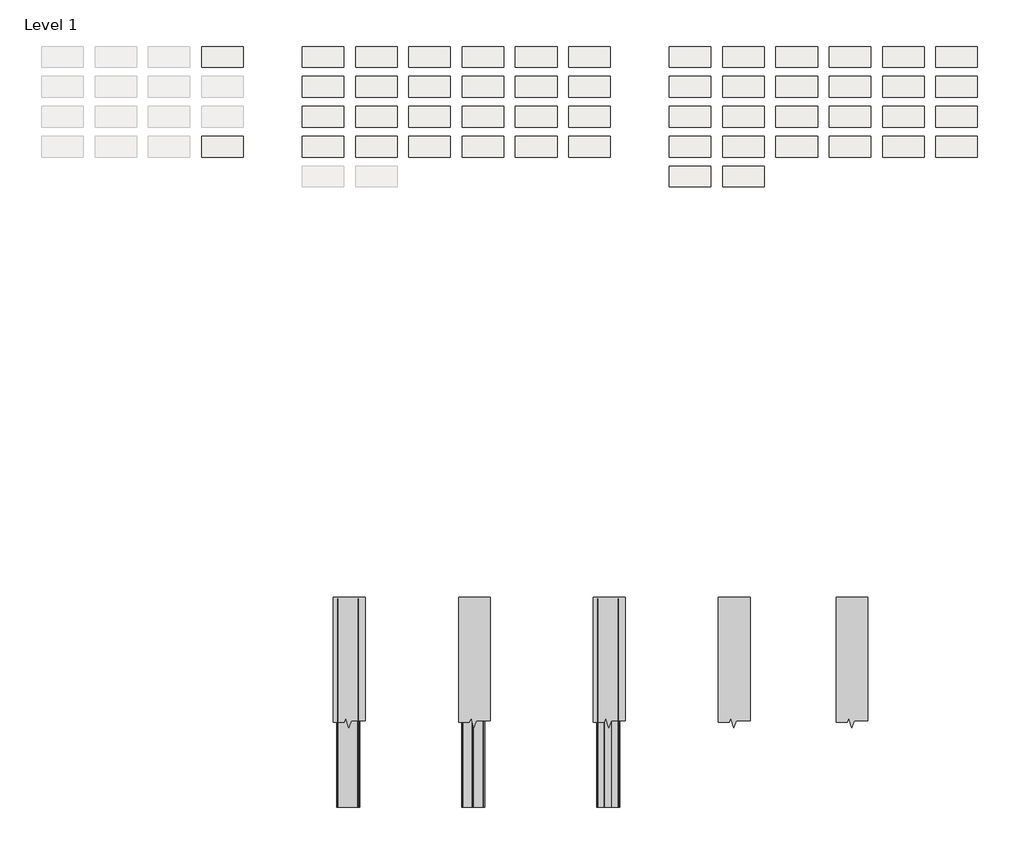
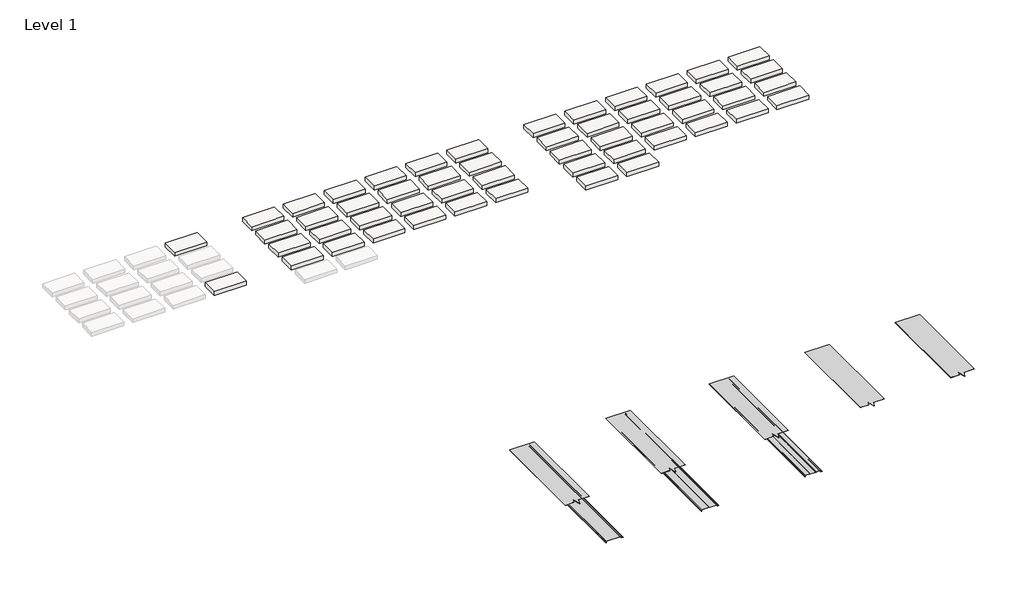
# One storey, part 2 of 2: 52 slabs, 8 proxies.
"""IFC4 building model written with IfcOpenShell, lengths in millimetres."""

from ifc_helpers import new_model, si_unit, frame, origin, place, context, project, spatial, polyline, outline, extrude, transform, mapped, element, save
from components import proxy_ff258109, proxy_1fc6f8f9, proxy_1fe1eae3, section_mask_section_mask_d91737e5

model = new_model("IFC4")

# Units and contexts
model_context = context("Model", 3, world=origin())
ifc_project = project(units=[si_unit("LENGTHUNIT", "METRE", prefix="MILLI")], contexts=[model_context])

# Site, building, storey
site = spatial("IfcSite", under=ifc_project)
building = spatial("IfcBuilding", under=site)
storey = spatial("IfcBuildingStorey", under=building, Name="Level 1", Elevation=0.0)

# Proxies
placement = place(None, origin())
proxy_shape = proxy_ff258109(model_context)
element("IfcBuildingElementProxy", 1, Name="Flush-Panel_1-Pencil-Rib_Panel_AEP_Span : 12\" Flush Panel - 1 Pencil Rib - 22ga", ObjectType="Flush-Panel_1-Pencil-Rib_Panel_AEP_Span : 12\" Flush Panel - 1 Pencil Rib - 22ga", at=placement, inside=storey, context=model_context, shape_type="MappedRepresentation", body=[
    mapped(proxy_shape, transform((8295.0843011, -590.3685555, 0.0), x_axis=(1.0, 0.0, 0.0), y_axis=(0.0, 1.0, 0.0), z_axis=(0.0, 0.0, 1.0))),
])
proxy_2_shape = proxy_1fc6f8f9(model_context)
element("IfcBuildingElementProxy", 2, Name="Flush-Panel_2-Pencil-Rib_Panel_AEP_Span : 12\" Flush Panel - 2 Pencil Ribs - 22ga", ObjectType="Flush-Panel_2-Pencil-Rib_Panel_AEP_Span : 12\" Flush Panel - 2 Pencil Ribs - 22ga", at=placement, inside=storey, context=model_context, shape_type="MappedRepresentation", body=[
    mapped(proxy_2_shape, transform((10276.2843011, -590.3685555, 0.0), x_axis=(1.0, 0.0, 0.0), y_axis=(0.0, 1.0, 0.0), z_axis=(0.0, 0.0, 1.0))),
])
proxy_3_shape = proxy_1fe1eae3(model_context)
element("IfcBuildingElementProxy", 3, Name="Flush-Panel_Panel_AEP_Span : 12\" Flush Panel - 22ga", ObjectType="Flush-Panel_Panel_AEP_Span : 12\" Flush Panel - 22ga", at=placement, inside=storey, context=model_context, shape_type="MappedRepresentation", body=[
    mapped(proxy_3_shape, transform((6466.2843011, -590.3685555, 0.0), x_axis=(1.0, 0.0, 0.0), y_axis=(0.0, 1.0, 0.0), z_axis=(0.0, 0.0, 1.0))),
])
section_mask_section_mask_shape = section_mask_section_mask_d91737e5(model_context)
element("IfcBuildingElementProxy", 4, Name="Section Mask : Section Mask", ObjectType="Section Mask : Section Mask", at=placement, inside=storey, context=model_context, shape_type="MappedRepresentation", body=[
    mapped(section_mask_section_mask_shape, transform((164.7879658, -3030.1113385, -15.875), x_axis=(1.0, 0.0, 0.0), y_axis=(0.0, 1.0, 0.0), z_axis=(0.0, 0.0, 1.0))),
])
element("IfcBuildingElementProxy", 5, Name="Section Mask1 : Section Mask", ObjectType="Section Mask1 : Section Mask", at=placement, inside=storey, context=model_context, shape_type="MappedRepresentation", body=[
    mapped(section_mask_section_mask_shape, transform((-1669.7396709, -3030.1113385, -15.875), x_axis=(1.0, 0.0, 0.0), y_axis=(0.0, 1.0, 0.0), z_axis=(0.0, 0.0, 1.0))),
])
element("IfcBuildingElementProxy", 6, Name="Section Mask2 : Section Mask", ObjectType="Section Mask2 : Section Mask", at=placement, inside=storey, context=model_context, shape_type="MappedRepresentation", body=[
    mapped(section_mask_section_mask_shape, transform((2140.2603291, -3030.1113385, -15.875), x_axis=(1.0, 0.0, 0.0), y_axis=(0.0, 1.0, 0.0), z_axis=(0.0, 0.0, 1.0))),
])
element("IfcBuildingElementProxy", 7, Name="Section Mask3 : Section Mask", ObjectType="Section Mask3 : Section Mask", at=placement, inside=storey, context=model_context, shape_type="MappedRepresentation", body=[
    mapped(section_mask_section_mask_shape, transform((3968.8174266, -3030.1113385, -15.875), x_axis=(1.0, 0.0, 0.0), y_axis=(0.0, 1.0, 0.0), z_axis=(0.0, 0.0, 1.0))),
])
element("IfcBuildingElementProxy", 8, Name="Section Mask4 : Section Mask", ObjectType="Section Mask4 : Section Mask", at=placement, inside=storey, context=model_context, shape_type="MappedRepresentation", body=[
    mapped(section_mask_section_mask_shape, transform((5696.8809594, -3030.1113385, -15.875), x_axis=(1.0, 0.0, 0.0), y_axis=(0.0, 1.0, 0.0), z_axis=(0.0, 0.0, 1.0))),
])

# Slabs
element("IfcSlab", 9, ObjectType="AEP Span Material Sample", at=placement, inside=storey, context=model_context, shape_type="SweptSolid", body=[
    extrude(outline(polyline([(4975.8339225, 7199.3976846), (4366.2339225, 7199.3976846), (4366.2339225, 7504.1976846), (4975.8339225, 7504.1976846), (4975.8339225, 7199.3976846)])), frame((0.0, 0.0, -79.375), z_axis=(0.0, 0.0, 1.0), x_axis=(1.0, 0.0, 0.0)), (0.0, 0.0, 1.0), 79.375),
])
element("IfcSlab", 10, ObjectType="AEP Span Material Sample", at=placement, inside=storey, context=model_context, shape_type="SweptSolid", body=[
    extrude(outline(polyline([(4975.8339225, 5884.9476846), (4366.2339225, 5884.9476846), (4366.2339225, 6189.7476846), (4975.8339225, 6189.7476846), (4975.8339225, 5884.9476846)])), frame((0.0, 0.0, -79.375), z_axis=(0.0, 0.0, 1.0), x_axis=(1.0, 0.0, 0.0)), (0.0, 0.0, 1.0), 79.375),
])
element("IfcSlab", 11, ObjectType="AEP Span Material Sample", at=placement, inside=storey, context=model_context, shape_type="SweptSolid", body=[
    extrude(outline(polyline([(6449.0339225, 7199.3976846), (5839.4339225, 7199.3976846), (5839.4339225, 7504.1976846), (6449.0339225, 7504.1976846), (6449.0339225, 7199.3976846)])), frame((0.0, 0.0, -79.375), z_axis=(0.0, 0.0, 1.0), x_axis=(1.0, 0.0, 0.0)), (0.0, 0.0, 1.0), 79.375),
])
element("IfcSlab", 12, ObjectType="AEP Span Material Sample", at=placement, inside=storey, context=model_context, shape_type="SweptSolid", body=[
    extrude(outline(polyline([(7230.0839225, 7199.3976846), (6620.4839225, 7199.3976846), (6620.4839225, 7504.1976846), (7230.0839225, 7504.1976846), (7230.0839225, 7199.3976846)])), frame((0.0, 0.0, -79.375), z_axis=(0.0, 0.0, 1.0), x_axis=(1.0, 0.0, 0.0)), (0.0, 0.0, 1.0), 79.375),
])
element("IfcSlab", 13, ObjectType="AEP Span Material Sample", at=placement, inside=storey, context=model_context, shape_type="SweptSolid", body=[
    extrude(outline(polyline([(8011.1339225, 7199.3976846), (7401.5339225, 7199.3976846), (7401.5339225, 7504.1976846), (8011.1339225, 7504.1976846), (8011.1339225, 7199.3976846)])), frame((0.0, 0.0, -79.375), z_axis=(0.0, 0.0, 1.0), x_axis=(1.0, 0.0, 0.0)), (0.0, 0.0, 1.0), 79.375),
])
element("IfcSlab", 14, ObjectType="AEP Span Material Sample", at=placement, inside=storey, context=model_context, shape_type="SweptSolid", body=[
    extrude(outline(polyline([(8792.1839225, 7199.3976846), (8182.5839225, 7199.3976846), (8182.5839225, 7504.1976846), (8792.1839225, 7504.1976846), (8792.1839225, 7199.3976846)])), frame((0.0, 0.0, -79.375), z_axis=(0.0, 0.0, 1.0), x_axis=(1.0, 0.0, 0.0)), (0.0, 0.0, 1.0), 79.375),
])
element("IfcSlab", 15, ObjectType="AEP Span Material Sample", at=placement, inside=storey, context=model_context, shape_type="SweptSolid", body=[
    extrude(outline(polyline([(9573.2339225, 7199.3976846), (8963.6339225, 7199.3976846), (8963.6339225, 7504.1976846), (9573.2339225, 7504.1976846), (9573.2339225, 7199.3976846)])), frame((0.0, 0.0, -79.375), z_axis=(0.0, 0.0, 1.0), x_axis=(1.0, 0.0, 0.0)), (0.0, 0.0, 1.0), 79.375),
])
element("IfcSlab", 16, ObjectType="AEP Span Material Sample", at=placement, inside=storey, context=model_context, shape_type="SweptSolid", body=[
    extrude(outline(polyline([(10354.2839225, 7199.3976846), (9744.6839225, 7199.3976846), (9744.6839225, 7504.1976846), (10354.2839225, 7504.1976846), (10354.2839225, 7199.3976846)])), frame((0.0, 0.0, -79.375), z_axis=(0.0, 0.0, 1.0), x_axis=(1.0, 0.0, 0.0)), (0.0, 0.0, 1.0), 79.375),
])
element("IfcSlab", 17, ObjectType="AEP Span Material Sample", at=placement, inside=storey, context=model_context, shape_type="SweptSolid", body=[
    extrude(outline(polyline([(6449.0339225, 6761.2476846), (5839.4339225, 6761.2476846), (5839.4339225, 7066.0476846), (6449.0339225, 7066.0476846), (6449.0339225, 6761.2476846)])), frame((0.0, 0.0, -79.375), z_axis=(0.0, 0.0, 1.0), x_axis=(1.0, 0.0, 0.0)), (0.0, 0.0, 1.0), 79.375),
])
element("IfcSlab", 18, ObjectType="AEP Span Material Sample", at=placement, inside=storey, context=model_context, shape_type="SweptSolid", body=[
    extrude(outline(polyline([(7230.0839225, 6761.2476846), (6620.4839225, 6761.2476846), (6620.4839225, 7066.0476846), (7230.0839225, 7066.0476846), (7230.0839225, 6761.2476846)])), frame((0.0, 0.0, -79.375), z_axis=(0.0, 0.0, 1.0), x_axis=(1.0, 0.0, 0.0)), (0.0, 0.0, 1.0), 79.375),
])
element("IfcSlab", 19, ObjectType="AEP Span Material Sample", at=placement, inside=storey, context=model_context, shape_type="SweptSolid", body=[
    extrude(outline(polyline([(8011.1339225, 6761.2476846), (7401.5339225, 6761.2476846), (7401.5339225, 7066.0476846), (8011.1339225, 7066.0476846), (8011.1339225, 6761.2476846)])), frame((0.0, 0.0, -79.375), z_axis=(0.0, 0.0, 1.0), x_axis=(1.0, 0.0, 0.0)), (0.0, 0.0, 1.0), 79.375),
])
element("IfcSlab", 20, ObjectType="AEP Span Material Sample", at=placement, inside=storey, context=model_context, shape_type="SweptSolid", body=[
    extrude(outline(polyline([(8792.1839225, 6761.2476846), (8182.5839225, 6761.2476846), (8182.5839225, 7066.0476846), (8792.1839225, 7066.0476846), (8792.1839225, 6761.2476846)])), frame((0.0, 0.0, -79.375), z_axis=(0.0, 0.0, 1.0), x_axis=(1.0, 0.0, 0.0)), (0.0, 0.0, 1.0), 79.375),
])
element("IfcSlab", 21, ObjectType="AEP Span Material Sample", at=placement, inside=storey, context=model_context, shape_type="SweptSolid", body=[
    extrude(outline(polyline([(9573.2339225, 6761.2476846), (8963.6339225, 6761.2476846), (8963.6339225, 7066.0476846), (9573.2339225, 7066.0476846), (9573.2339225, 6761.2476846)])), frame((0.0, 0.0, -79.375), z_axis=(0.0, 0.0, 1.0), x_axis=(1.0, 0.0, 0.0)), (0.0, 0.0, 1.0), 79.375),
])
element("IfcSlab", 22, ObjectType="AEP Span Material Sample", at=placement, inside=storey, context=model_context, shape_type="SweptSolid", body=[
    extrude(outline(polyline([(10354.2839225, 6761.2476846), (9744.6839225, 6761.2476846), (9744.6839225, 7066.0476846), (10354.2839225, 7066.0476846), (10354.2839225, 6761.2476846)])), frame((0.0, 0.0, -79.375), z_axis=(0.0, 0.0, 1.0), x_axis=(1.0, 0.0, 0.0)), (0.0, 0.0, 1.0), 79.375),
])
element("IfcSlab", 23, ObjectType="AEP Span Material Sample", at=placement, inside=storey, context=model_context, shape_type="SweptSolid", body=[
    extrude(outline(polyline([(6449.0339225, 6323.0976846), (5839.4339225, 6323.0976846), (5839.4339225, 6627.8976846), (6449.0339225, 6627.8976846), (6449.0339225, 6323.0976846)])), frame((0.0, 0.0, -79.375), z_axis=(0.0, 0.0, 1.0), x_axis=(1.0, 0.0, 0.0)), (0.0, 0.0, 1.0), 79.375),
])
element("IfcSlab", 24, ObjectType="AEP Span Material Sample", at=placement, inside=storey, context=model_context, shape_type="SweptSolid", body=[
    extrude(outline(polyline([(7230.0839225, 6323.0976846), (6620.4839225, 6323.0976846), (6620.4839225, 6627.8976846), (7230.0839225, 6627.8976846), (7230.0839225, 6323.0976846)])), frame((0.0, 0.0, -79.375), z_axis=(0.0, 0.0, 1.0), x_axis=(1.0, 0.0, 0.0)), (0.0, 0.0, 1.0), 79.375),
])
element("IfcSlab", 25, ObjectType="AEP Span Material Sample", at=placement, inside=storey, context=model_context, shape_type="SweptSolid", body=[
    extrude(outline(polyline([(8011.1339225, 6323.0976846), (7401.5339225, 6323.0976846), (7401.5339225, 6627.8976846), (8011.1339225, 6627.8976846), (8011.1339225, 6323.0976846)])), frame((0.0, 0.0, -79.375), z_axis=(0.0, 0.0, 1.0), x_axis=(1.0, 0.0, 0.0)), (0.0, 0.0, 1.0), 79.375),
])
element("IfcSlab", 26, ObjectType="AEP Span Material Sample", at=placement, inside=storey, context=model_context, shape_type="SweptSolid", body=[
    extrude(outline(polyline([(8792.1839225, 6323.0976846), (8182.5839225, 6323.0976846), (8182.5839225, 6627.8976846), (8792.1839225, 6627.8976846), (8792.1839225, 6323.0976846)])), frame((0.0, 0.0, -79.375), z_axis=(0.0, 0.0, 1.0), x_axis=(1.0, 0.0, 0.0)), (0.0, 0.0, 1.0), 79.375),
])
element("IfcSlab", 27, ObjectType="AEP Span Material Sample", at=placement, inside=storey, context=model_context, shape_type="SweptSolid", body=[
    extrude(outline(polyline([(9573.2339225, 6323.0976846), (8963.6339225, 6323.0976846), (8963.6339225, 6627.8976846), (9573.2339225, 6627.8976846), (9573.2339225, 6323.0976846)])), frame((0.0, 0.0, -79.375), z_axis=(0.0, 0.0, 1.0), x_axis=(1.0, 0.0, 0.0)), (0.0, 0.0, 1.0), 79.375),
])
element("IfcSlab", 28, ObjectType="AEP Span Material Sample", at=placement, inside=storey, context=model_context, shape_type="SweptSolid", body=[
    extrude(outline(polyline([(10354.2839225, 6323.0976846), (9744.6839225, 6323.0976846), (9744.6839225, 6627.8976846), (10354.2839225, 6627.8976846), (10354.2839225, 6323.0976846)])), frame((0.0, 0.0, -79.375), z_axis=(0.0, 0.0, 1.0), x_axis=(1.0, 0.0, 0.0)), (0.0, 0.0, 1.0), 79.375),
])
element("IfcSlab", 29, ObjectType="AEP Span Material Sample", at=placement, inside=storey, context=model_context, shape_type="SweptSolid", body=[
    extrude(outline(polyline([(6449.0339225, 5884.9476846), (5839.4339225, 5884.9476846), (5839.4339225, 6189.7476846), (6449.0339225, 6189.7476846), (6449.0339225, 5884.9476846)])), frame((0.0, 0.0, -79.375), z_axis=(0.0, 0.0, 1.0), x_axis=(1.0, 0.0, 0.0)), (0.0, 0.0, 1.0), 79.375),
])
element("IfcSlab", 30, ObjectType="AEP Span Material Sample", at=placement, inside=storey, context=model_context, shape_type="SweptSolid", body=[
    extrude(outline(polyline([(7230.0839225, 5884.9476846), (6620.4839225, 5884.9476846), (6620.4839225, 6189.7476846), (7230.0839225, 6189.7476846), (7230.0839225, 5884.9476846)])), frame((0.0, 0.0, -79.375), z_axis=(0.0, 0.0, 1.0), x_axis=(1.0, 0.0, 0.0)), (0.0, 0.0, 1.0), 79.375),
])
element("IfcSlab", 31, ObjectType="AEP Span Material Sample", at=placement, inside=storey, context=model_context, shape_type="SweptSolid", body=[
    extrude(outline(polyline([(8011.1339225, 5884.9476846), (7401.5339225, 5884.9476846), (7401.5339225, 6189.7476846), (8011.1339225, 6189.7476846), (8011.1339225, 5884.9476846)])), frame((0.0, 0.0, -79.375), z_axis=(0.0, 0.0, 1.0), x_axis=(1.0, 0.0, 0.0)), (0.0, 0.0, 1.0), 79.375),
])
element("IfcSlab", 32, ObjectType="AEP Span Material Sample", at=placement, inside=storey, context=model_context, shape_type="SweptSolid", body=[
    extrude(outline(polyline([(8792.1839225, 5884.9476846), (8182.5839225, 5884.9476846), (8182.5839225, 6189.7476846), (8792.1839225, 6189.7476846), (8792.1839225, 5884.9476846)])), frame((0.0, 0.0, -79.375), z_axis=(0.0, 0.0, 1.0), x_axis=(1.0, 0.0, 0.0)), (0.0, 0.0, 1.0), 79.375),
])
element("IfcSlab", 33, ObjectType="AEP Span Material Sample", at=placement, inside=storey, context=model_context, shape_type="SweptSolid", body=[
    extrude(outline(polyline([(9573.2339225, 5884.9476846), (8963.6339225, 5884.9476846), (8963.6339225, 6189.7476846), (9573.2339225, 6189.7476846), (9573.2339225, 5884.9476846)])), frame((0.0, 0.0, -79.375), z_axis=(0.0, 0.0, 1.0), x_axis=(1.0, 0.0, 0.0)), (0.0, 0.0, 1.0), 79.375),
])
element("IfcSlab", 34, ObjectType="AEP Span Material Sample", at=placement, inside=storey, context=model_context, shape_type="SweptSolid", body=[
    extrude(outline(polyline([(10354.2839225, 5884.9476846), (9744.6839225, 5884.9476846), (9744.6839225, 6189.7476846), (10354.2839225, 6189.7476846), (10354.2839225, 5884.9476846)])), frame((0.0, 0.0, -79.375), z_axis=(0.0, 0.0, 1.0), x_axis=(1.0, 0.0, 0.0)), (0.0, 0.0, 1.0), 79.375),
])
element("IfcSlab", 35, ObjectType="AEP Span Material Sample", at=placement, inside=storey, context=model_context, shape_type="SweptSolid", body=[
    extrude(outline(polyline([(11827.4839225, 7199.3976846), (11217.8839225, 7199.3976846), (11217.8839225, 7504.1976846), (11827.4839225, 7504.1976846), (11827.4839225, 7199.3976846)])), frame((0.0, 0.0, -79.375), z_axis=(0.0, 0.0, 1.0), x_axis=(1.0, 0.0, 0.0)), (0.0, 0.0, 1.0), 79.375),
])
element("IfcSlab", 36, ObjectType="AEP Span Material Sample", at=placement, inside=storey, context=model_context, shape_type="SweptSolid", body=[
    extrude(outline(polyline([(12608.5339225, 7199.3976846), (11998.9339225, 7199.3976846), (11998.9339225, 7504.1976846), (12608.5339225, 7504.1976846), (12608.5339225, 7199.3976846)])), frame((0.0, 0.0, -79.375), z_axis=(0.0, 0.0, 1.0), x_axis=(1.0, 0.0, 0.0)), (0.0, 0.0, 1.0), 79.375),
])
element("IfcSlab", 37, ObjectType="AEP Span Material Sample", at=placement, inside=storey, context=model_context, shape_type="SweptSolid", body=[
    extrude(outline(polyline([(13389.5839225, 7199.3976846), (12779.9839225, 7199.3976846), (12779.9839225, 7504.1976846), (13389.5839225, 7504.1976846), (13389.5839225, 7199.3976846)])), frame((0.0, 0.0, -79.375), z_axis=(0.0, 0.0, 1.0), x_axis=(1.0, 0.0, 0.0)), (0.0, 0.0, 1.0), 79.375),
])
element("IfcSlab", 38, ObjectType="AEP Span Material Sample", at=placement, inside=storey, context=model_context, shape_type="SweptSolid", body=[
    extrude(outline(polyline([(14170.6339225, 7199.3976846), (13561.0339225, 7199.3976846), (13561.0339225, 7504.1976846), (14170.6339225, 7504.1976846), (14170.6339225, 7199.3976846)])), frame((0.0, 0.0, -79.375), z_axis=(0.0, 0.0, 1.0), x_axis=(1.0, 0.0, 0.0)), (0.0, 0.0, 1.0), 79.375),
])
element("IfcSlab", 39, ObjectType="AEP Span Material Sample", at=placement, inside=storey, context=model_context, shape_type="SweptSolid", body=[
    extrude(outline(polyline([(14951.6839225, 7199.3976846), (14342.0839225, 7199.3976846), (14342.0839225, 7504.1976846), (14951.6839225, 7504.1976846), (14951.6839225, 7199.3976846)])), frame((0.0, 0.0, -79.375), z_axis=(0.0, 0.0, 1.0), x_axis=(1.0, 0.0, 0.0)), (0.0, 0.0, 1.0), 79.375),
])
element("IfcSlab", 40, ObjectType="AEP Span Material Sample", at=placement, inside=storey, context=model_context, shape_type="SweptSolid", body=[
    extrude(outline(polyline([(15732.7339225, 7199.3976846), (15123.1339225, 7199.3976846), (15123.1339225, 7504.1976846), (15732.7339225, 7504.1976846), (15732.7339225, 7199.3976846)])), frame((0.0, 0.0, -79.375), z_axis=(0.0, 0.0, 1.0), x_axis=(1.0, 0.0, 0.0)), (0.0, 0.0, 1.0), 79.375),
])
element("IfcSlab", 41, ObjectType="AEP Span Material Sample", at=placement, inside=storey, context=model_context, shape_type="SweptSolid", body=[
    extrude(outline(polyline([(11827.4839225, 6761.2476846), (11217.8839225, 6761.2476846), (11217.8839225, 7066.0476846), (11827.4839225, 7066.0476846), (11827.4839225, 6761.2476846)])), frame((0.0, 0.0, -79.375), z_axis=(0.0, 0.0, 1.0), x_axis=(1.0, 0.0, 0.0)), (0.0, 0.0, 1.0), 79.375),
])
element("IfcSlab", 42, ObjectType="AEP Span Material Sample", at=placement, inside=storey, context=model_context, shape_type="SweptSolid", body=[
    extrude(outline(polyline([(12608.5339225, 6761.2476846), (11998.9339225, 6761.2476846), (11998.9339225, 7066.0476846), (12608.5339225, 7066.0476846), (12608.5339225, 6761.2476846)])), frame((0.0, 0.0, -79.375), z_axis=(0.0, 0.0, 1.0), x_axis=(1.0, 0.0, 0.0)), (0.0, 0.0, 1.0), 79.375),
])
element("IfcSlab", 43, ObjectType="AEP Span Material Sample", at=placement, inside=storey, context=model_context, shape_type="SweptSolid", body=[
    extrude(outline(polyline([(13389.5839225, 6761.2476846), (12779.9839225, 6761.2476846), (12779.9839225, 7066.0476846), (13389.5839225, 7066.0476846), (13389.5839225, 6761.2476846)])), frame((0.0, 0.0, -79.375), z_axis=(0.0, 0.0, 1.0), x_axis=(1.0, 0.0, 0.0)), (0.0, 0.0, 1.0), 79.375),
])
element("IfcSlab", 44, ObjectType="AEP Span Material Sample", at=placement, inside=storey, context=model_context, shape_type="SweptSolid", body=[
    extrude(outline(polyline([(14170.6339225, 6761.2476846), (13561.0339225, 6761.2476846), (13561.0339225, 7066.0476846), (14170.6339225, 7066.0476846), (14170.6339225, 6761.2476846)])), frame((0.0, 0.0, -79.375), z_axis=(0.0, 0.0, 1.0), x_axis=(1.0, 0.0, 0.0)), (0.0, 0.0, 1.0), 79.375),
])
element("IfcSlab", 45, ObjectType="AEP Span Material Sample", at=placement, inside=storey, context=model_context, shape_type="SweptSolid", body=[
    extrude(outline(polyline([(14951.6839225, 6761.2476846), (14342.0839225, 6761.2476846), (14342.0839225, 7066.0476846), (14951.6839225, 7066.0476846), (14951.6839225, 6761.2476846)])), frame((0.0, 0.0, -79.375), z_axis=(0.0, 0.0, 1.0), x_axis=(1.0, 0.0, 0.0)), (0.0, 0.0, 1.0), 79.375),
])
element("IfcSlab", 46, ObjectType="AEP Span Material Sample", at=placement, inside=storey, context=model_context, shape_type="SweptSolid", body=[
    extrude(outline(polyline([(15732.7339225, 6761.2476846), (15123.1339225, 6761.2476846), (15123.1339225, 7066.0476846), (15732.7339225, 7066.0476846), (15732.7339225, 6761.2476846)])), frame((0.0, 0.0, -79.375), z_axis=(0.0, 0.0, 1.0), x_axis=(1.0, 0.0, 0.0)), (0.0, 0.0, 1.0), 79.375),
])
element("IfcSlab", 47, ObjectType="AEP Span Material Sample", at=placement, inside=storey, context=model_context, shape_type="SweptSolid", body=[
    extrude(outline(polyline([(11827.4839225, 6323.0976846), (11217.8839225, 6323.0976846), (11217.8839225, 6627.8976846), (11827.4839225, 6627.8976846), (11827.4839225, 6323.0976846)])), frame((0.0, 0.0, -79.375), z_axis=(0.0, 0.0, 1.0), x_axis=(1.0, 0.0, 0.0)), (0.0, 0.0, 1.0), 79.375),
])
element("IfcSlab", 48, ObjectType="AEP Span Material Sample", at=placement, inside=storey, context=model_context, shape_type="SweptSolid", body=[
    extrude(outline(polyline([(12608.5339225, 6323.0976846), (11998.9339225, 6323.0976846), (11998.9339225, 6627.8976846), (12608.5339225, 6627.8976846), (12608.5339225, 6323.0976846)])), frame((0.0, 0.0, -79.375), z_axis=(0.0, 0.0, 1.0), x_axis=(1.0, 0.0, 0.0)), (0.0, 0.0, 1.0), 79.375),
])
element("IfcSlab", 49, ObjectType="AEP Span Material Sample", at=placement, inside=storey, context=model_context, shape_type="SweptSolid", body=[
    extrude(outline(polyline([(13389.5839225, 6323.0976846), (12779.9839225, 6323.0976846), (12779.9839225, 6627.8976846), (13389.5839225, 6627.8976846), (13389.5839225, 6323.0976846)])), frame((0.0, 0.0, -79.375), z_axis=(0.0, 0.0, 1.0), x_axis=(1.0, 0.0, 0.0)), (0.0, 0.0, 1.0), 79.375),
])
element("IfcSlab", 50, ObjectType="AEP Span Material Sample", at=placement, inside=storey, context=model_context, shape_type="SweptSolid", body=[
    extrude(outline(polyline([(14170.6339225, 6323.0976846), (13561.0339225, 6323.0976846), (13561.0339225, 6627.8976846), (14170.6339225, 6627.8976846), (14170.6339225, 6323.0976846)])), frame((0.0, 0.0, -79.375), z_axis=(0.0, 0.0, 1.0), x_axis=(1.0, 0.0, 0.0)), (0.0, 0.0, 1.0), 79.375),
])
element("IfcSlab", 51, ObjectType="AEP Span Material Sample", at=placement, inside=storey, context=model_context, shape_type="SweptSolid", body=[
    extrude(outline(polyline([(14951.6839225, 6323.0976846), (14342.0839225, 6323.0976846), (14342.0839225, 6627.8976846), (14951.6839225, 6627.8976846), (14951.6839225, 6323.0976846)])), frame((0.0, 0.0, -79.375), z_axis=(0.0, 0.0, 1.0), x_axis=(1.0, 0.0, 0.0)), (0.0, 0.0, 1.0), 79.375),
])
element("IfcSlab", 52, ObjectType="AEP Span Material Sample", at=placement, inside=storey, context=model_context, shape_type="SweptSolid", body=[
    extrude(outline(polyline([(15732.7339225, 6323.0976846), (15123.1339225, 6323.0976846), (15123.1339225, 6627.8976846), (15732.7339225, 6627.8976846), (15732.7339225, 6323.0976846)])), frame((0.0, 0.0, -79.375), z_axis=(0.0, 0.0, 1.0), x_axis=(1.0, 0.0, 0.0)), (0.0, 0.0, 1.0), 79.375),
])
element("IfcSlab", 53, ObjectType="AEP Span Material Sample", at=placement, inside=storey, context=model_context, shape_type="SweptSolid", body=[
    extrude(outline(polyline([(11827.4839225, 5884.9476846), (11217.8839225, 5884.9476846), (11217.8839225, 6189.7476846), (11827.4839225, 6189.7476846), (11827.4839225, 5884.9476846)])), frame((0.0, 0.0, -79.375), z_axis=(0.0, 0.0, 1.0), x_axis=(1.0, 0.0, 0.0)), (0.0, 0.0, 1.0), 79.375),
])
element("IfcSlab", 54, ObjectType="AEP Span Material Sample", at=placement, inside=storey, context=model_context, shape_type="SweptSolid", body=[
    extrude(outline(polyline([(12608.5339225, 5884.9476846), (11998.9339225, 5884.9476846), (11998.9339225, 6189.7476846), (12608.5339225, 6189.7476846), (12608.5339225, 5884.9476846)])), frame((0.0, 0.0, -79.375), z_axis=(0.0, 0.0, 1.0), x_axis=(1.0, 0.0, 0.0)), (0.0, 0.0, 1.0), 79.375),
])
element("IfcSlab", 55, ObjectType="AEP Span Material Sample", at=placement, inside=storey, context=model_context, shape_type="SweptSolid", body=[
    extrude(outline(polyline([(13389.5839225, 5884.9476846), (12779.9839225, 5884.9476846), (12779.9839225, 6189.7476846), (13389.5839225, 6189.7476846), (13389.5839225, 5884.9476846)])), frame((0.0, 0.0, -79.375), z_axis=(0.0, 0.0, 1.0), x_axis=(1.0, 0.0, 0.0)), (0.0, 0.0, 1.0), 79.375),
])
element("IfcSlab", 56, ObjectType="AEP Span Material Sample", at=placement, inside=storey, context=model_context, shape_type="SweptSolid", body=[
    extrude(outline(polyline([(14170.6339225, 5884.9476846), (13561.0339225, 5884.9476846), (13561.0339225, 6189.7476846), (14170.6339225, 6189.7476846), (14170.6339225, 5884.9476846)])), frame((0.0, 0.0, -79.375), z_axis=(0.0, 0.0, 1.0), x_axis=(1.0, 0.0, 0.0)), (0.0, 0.0, 1.0), 79.375),
])
element("IfcSlab", 57, ObjectType="AEP Span Material Sample", at=placement, inside=storey, context=model_context, shape_type="SweptSolid", body=[
    extrude(outline(polyline([(14951.6839225, 5884.9476846), (14342.0839225, 5884.9476846), (14342.0839225, 6189.7476846), (14951.6839225, 6189.7476846), (14951.6839225, 5884.9476846)])), frame((0.0, 0.0, -79.375), z_axis=(0.0, 0.0, 1.0), x_axis=(1.0, 0.0, 0.0)), (0.0, 0.0, 1.0), 79.375),
])
element("IfcSlab", 58, ObjectType="AEP Span Material Sample", at=placement, inside=storey, context=model_context, shape_type="SweptSolid", body=[
    extrude(outline(polyline([(15732.7339225, 5884.9476846), (15123.1339225, 5884.9476846), (15123.1339225, 6189.7476846), (15732.7339225, 6189.7476846), (15732.7339225, 5884.9476846)])), frame((0.0, 0.0, -79.375), z_axis=(0.0, 0.0, 1.0), x_axis=(1.0, 0.0, 0.0)), (0.0, 0.0, 1.0), 79.375),
])
element("IfcSlab", 59, ObjectType="AEP Span Material Sample", at=placement, inside=storey, context=model_context, shape_type="SweptSolid", body=[
    extrude(outline(polyline([(11827.4839225, 5446.7976846), (11217.8839225, 5446.7976846), (11217.8839225, 5751.5976846), (11827.4839225, 5751.5976846), (11827.4839225, 5446.7976846)])), frame((0.0, 0.0, -79.375), z_axis=(0.0, 0.0, 1.0), x_axis=(1.0, 0.0, 0.0)), (0.0, 0.0, 1.0), 79.375),
])
element("IfcSlab", 60, ObjectType="AEP Span Material Sample", at=placement, inside=storey, context=model_context, shape_type="SweptSolid", body=[
    extrude(outline(polyline([(12608.5339225, 5446.7976846), (11998.9339225, 5446.7976846), (11998.9339225, 5751.5976846), (12608.5339225, 5751.5976846), (12608.5339225, 5446.7976846)])), frame((0.0, 0.0, -79.375), z_axis=(0.0, 0.0, 1.0), x_axis=(1.0, 0.0, 0.0)), (0.0, 0.0, 1.0), 79.375),
])

save(model, "model.ifc")
